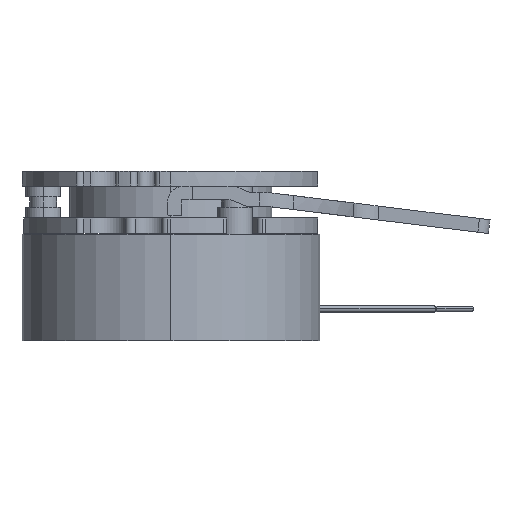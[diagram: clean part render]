
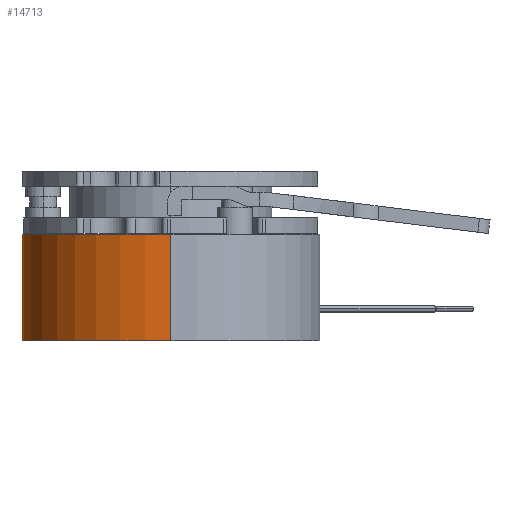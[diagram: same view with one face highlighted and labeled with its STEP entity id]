
A CAD part, left-side view. The second image highlights one B-rep face of the part: STEP entity #14713.
In plain terms, the highlighted cylindrical face has radius 28 mm (diameter 56 mm), a partial arc.
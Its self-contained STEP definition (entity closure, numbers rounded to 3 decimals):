
#1102 = VERTEX_POINT ( 'NONE', #4309 ) ;
#1128 = VERTEX_POINT ( 'NONE', #4327 ) ;
#1137 = VERTEX_POINT ( 'NONE', #4334 ) ;
#4073 = EDGE_LOOP ( 'NONE', ( #16148, #16141, #16142, #16112 ) ) ;
#4192 = VERTEX_POINT ( 'NONE', #9855 ) ;
#4309 = CARTESIAN_POINT ( 'NONE',  ( -28., 0., 20. ) ) ;
#4327 = CARTESIAN_POINT ( 'NONE',  ( 28., 0., 20. ) ) ;
#4334 = CARTESIAN_POINT ( 'NONE',  ( 28., 0., 0. ) ) ;
#8552 = CIRCLE ( 'NONE', #15745, 28. ) ;
#8573 = LINE ( 'NONE', #14205, #8575 ) ;
#8575 = VECTOR ( 'NONE', #14201, 1000. ) ;
#9617 = CARTESIAN_POINT ( 'NONE',  ( 28., 0., 20. ) ) ;
#9635 = DIRECTION ( 'NONE',  ( 0., 0., -1. ) ) ;
#9638 = CARTESIAN_POINT ( 'NONE',  ( 0., 0., 0. ) ) ;
#9639 = DIRECTION ( 'NONE',  ( 0., 0., 1. ) ) ;
#9640 = DIRECTION ( 'NONE',  ( 1., 0., 0. ) ) ;
#9855 = CARTESIAN_POINT ( 'NONE',  ( -28., 0., 0. ) ) ;
#9979 = EDGE_CURVE ( 'NONE', #1128, #1137, #13095, .T. ) ;
#9980 = EDGE_CURVE ( 'NONE', #1137, #4192, #13091, .T. ) ;
#11109 = EDGE_CURVE ( 'NONE', #1128, #1102, #8552, .T. ) ;
#11123 = EDGE_CURVE ( 'NONE', #1102, #4192, #8573, .T. ) ;
#11201 = AXIS2_PLACEMENT_3D ( 'NONE', #9638, #9639, #9640 ) ;
#12470 = FACE_OUTER_BOUND ( 'NONE', #4073, .T. ) ;
#12478 = CYLINDRICAL_SURFACE ( 'NONE', #16646, 28. ) ;
#13091 = CIRCLE ( 'NONE', #11201, 28. ) ;
#13095 = LINE ( 'NONE', #9617, #13098 ) ;
#13098 = VECTOR ( 'NONE', #9635, 1000. ) ;
#13725 = CARTESIAN_POINT ( 'NONE',  ( 0., 0., 20. ) ) ;
#13726 = DIRECTION ( 'NONE',  ( 0., 0., -1. ) ) ;
#13734 = DIRECTION ( 'NONE',  ( -1., 0., 0. ) ) ;
#14174 = CARTESIAN_POINT ( 'NONE',  ( 0., 0., 20. ) ) ;
#14175 = DIRECTION ( 'NONE',  ( 0., 0., 1. ) ) ;
#14176 = DIRECTION ( 'NONE',  ( 1., 0., 0. ) ) ;
#14201 = DIRECTION ( 'NONE',  ( 0., 0., -1. ) ) ;
#14205 = CARTESIAN_POINT ( 'NONE',  ( -28., 0., 20. ) ) ;
#14713 = ADVANCED_FACE ( 'NONE', ( #12470 ), #12478, .T. ) ;
#15745 = AXIS2_PLACEMENT_3D ( 'NONE', #14174, #14175, #14176 ) ;
#16112 = ORIENTED_EDGE ( 'NONE', *, *, #11123, .F. ) ;
#16141 = ORIENTED_EDGE ( 'NONE', *, *, #9979, .T. ) ;
#16142 = ORIENTED_EDGE ( 'NONE', *, *, #9980, .T. ) ;
#16148 = ORIENTED_EDGE ( 'NONE', *, *, #11109, .F. ) ;
#16646 = AXIS2_PLACEMENT_3D ( 'NONE', #13725, #13726, #13734 ) ;
